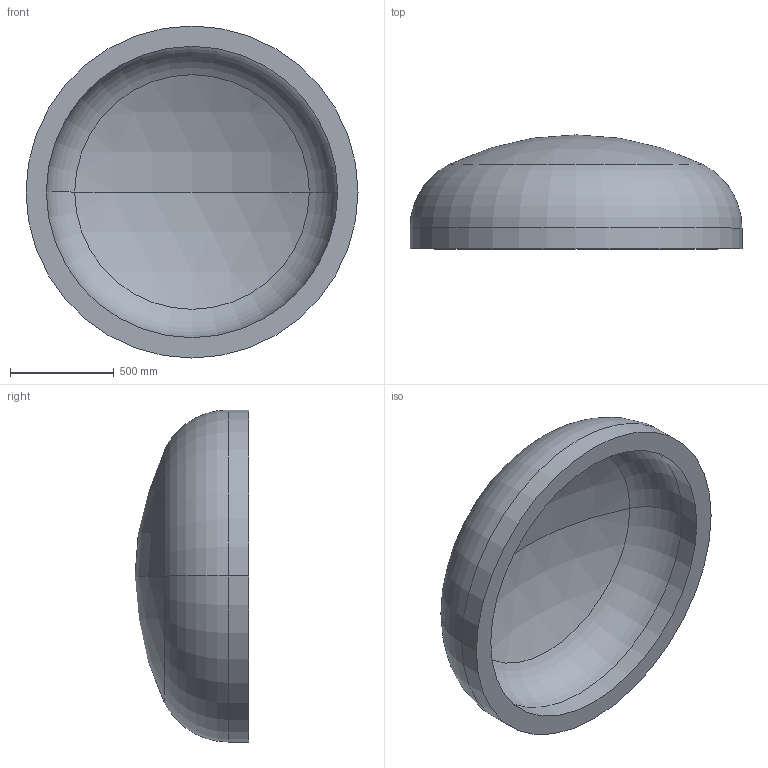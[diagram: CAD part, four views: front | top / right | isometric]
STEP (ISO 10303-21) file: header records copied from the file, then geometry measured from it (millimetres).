
FILE_DESCRIPTION (( 'STEP AP203' ), '1' );
FILE_NAME ('DIN 28013 Korbbogenform_-_Boden DIN 28013 - 1600 x 100 - I - s=98.step', '2016-07-01T11:29:20', ( '' ), ( '' ), 'SwSTEP 2.0', 'SolidWorks 2013', '' );
FILE_SCHEMA (( 'CONFIG_CONTROL_DESIGN' ));
Length unit declared in the file: millimetre
Products named in the file (1): DIN 28013 Korbbogenform_-_Boden DIN 28013 - 1600 x 100 - I - s=98
Bounding box: 1600 x 549.36 x 1600 mm (x, y, z)
Volume: 298368580.1 mm3; surface area: 6571697.7 mm2
Topology: 1 solids, 1 shells, 13 faces, 24 edges, 14 vertices
Faces by surface type: torus 4, cylinder 4, sphere 4, plane 1
Entity records: 407 total; most frequent: DIRECTION 72, CARTESIAN_POINT 52, ORIENTED_EDGE 48, AXIS2_PLACEMENT_3D 34, EDGE_CURVE 24, CIRCLE 20, EDGE_LOOP 14, VERTEX_POINT 14
